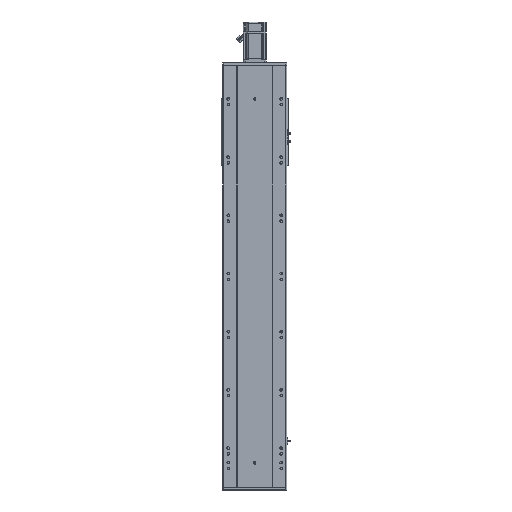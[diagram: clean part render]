
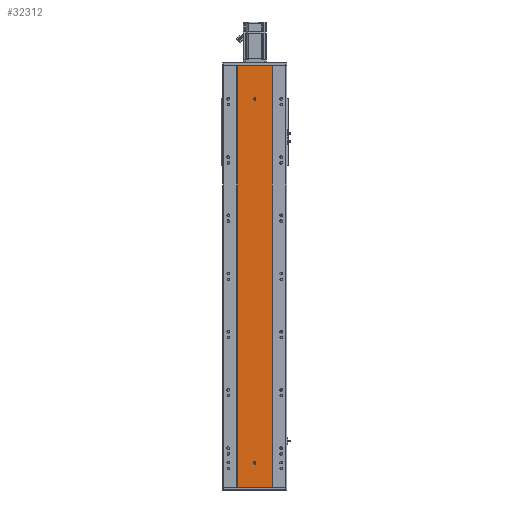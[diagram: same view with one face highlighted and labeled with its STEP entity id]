
A CAD part, front view. The second image highlights one B-rep face of the part: STEP entity #32312.
In plain terms, the highlighted planar face has unit normal (0, -1, 0).
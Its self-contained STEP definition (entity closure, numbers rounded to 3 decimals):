
#846 = VECTOR ( 'NONE', #32666, 1000. ) ;
#1360 = EDGE_CURVE ( 'NONE', #24825, #36761, #6103, .T. ) ;
#2261 = VECTOR ( 'NONE', #11137, 1000. ) ;
#4689 = LINE ( 'NONE', #62949, #48230 ) ;
#4769 = DIRECTION ( 'NONE',  ( 0., 0., -1. ) ) ;
#5056 = CARTESIAN_POINT ( 'NONE',  ( 0., 0., 80.5 ) ) ;
#5217 = CARTESIAN_POINT ( 'NONE',  ( 4., 0., 84.5 ) ) ;
#5332 = FACE_BOUND ( 'NONE', #60350, .T. ) ;
#5574 = CARTESIAN_POINT ( 'NONE',  ( 60., 0., 0. ) ) ;
#5734 = VERTEX_POINT ( 'NONE', #68126 ) ;
#6103 = CIRCLE ( 'NONE', #22642, 4. ) ;
#9934 = CIRCLE ( 'NONE', #13556, 4. ) ;
#11137 = DIRECTION ( 'NONE',  ( 0., 0., -1. ) ) ;
#12325 = ORIENTED_EDGE ( 'NONE', *, *, #44522, .F. ) ;
#13371 = DIRECTION ( 'NONE',  ( 0., -1., 0. ) ) ;
#13556 = AXIS2_PLACEMENT_3D ( 'NONE', #53838, #13371, #54062 ) ;
#14284 = FACE_BOUND ( 'NONE', #72525, .T. ) ;
#15116 = CARTESIAN_POINT ( 'NONE',  ( 60., 0., 1450. ) ) ;
#15667 = DIRECTION ( 'NONE',  ( 1., 0., 0. ) ) ;
#16637 = CARTESIAN_POINT ( 'NONE',  ( -4., 0., 84.5 ) ) ;
#16792 = AXIS2_PLACEMENT_3D ( 'NONE', #50406, #27851, #44697 ) ;
#20487 = VECTOR ( 'NONE', #15667, 1000. ) ;
#21943 = AXIS2_PLACEMENT_3D ( 'NONE', #49595, #60570, #25845 ) ;
#22642 = AXIS2_PLACEMENT_3D ( 'NONE', #72955, #72721, #39107 ) ;
#23417 = EDGE_CURVE ( 'NONE', #59981, #35006, #64379, .T. ) ;
#24515 = EDGE_CURVE ( 'NONE', #69302, #50229, #4689, .T. ) ;
#24825 = VERTEX_POINT ( 'NONE', #39334 ) ;
#25845 = DIRECTION ( 'NONE',  ( 0., 0., 1. ) ) ;
#26608 = VERTEX_POINT ( 'NONE', #5217 ) ;
#27169 = CARTESIAN_POINT ( 'NONE',  ( 0., 0., 1336. ) ) ;
#27184 = EDGE_CURVE ( 'NONE', #26608, #59981, #63092, .T. ) ;
#27564 = DIRECTION ( 'NONE',  ( 0., 0., -1. ) ) ;
#27851 = DIRECTION ( 'NONE',  ( 0., -1., 0. ) ) ;
#28757 = VECTOR ( 'NONE', #27564, 1000. ) ;
#28932 = DIRECTION ( 'NONE',  ( 0., 0., -1. ) ) ;
#29572 = CARTESIAN_POINT ( 'NONE',  ( 0., 0., 87.5 ) ) ;
#30524 = ORIENTED_EDGE ( 'NONE', *, *, #42450, .F. ) ;
#30591 = CARTESIAN_POINT ( 'NONE',  ( -60., 0., 1450. ) ) ;
#31933 = CARTESIAN_POINT ( 'NONE',  ( 4., 0., 84.5 ) ) ;
#32312 = ADVANCED_FACE ( 'NONE', ( #5332, #14284, #52462 ), #66281, .F. ) ;
#32666 = DIRECTION ( 'NONE',  ( 0., 0., 1. ) ) ;
#33445 = CARTESIAN_POINT ( 'NONE',  ( -60., 0., 1450. ) ) ;
#33903 = LINE ( 'NONE', #33445, #57007 ) ;
#34080 = ORIENTED_EDGE ( 'NONE', *, *, #68022, .F. ) ;
#34410 = ORIENTED_EDGE ( 'NONE', *, *, #23417, .F. ) ;
#35006 = VERTEX_POINT ( 'NONE', #71921 ) ;
#36761 = VERTEX_POINT ( 'NONE', #37040 ) ;
#36904 = LINE ( 'NONE', #39905, #2261 ) ;
#36990 = CIRCLE ( 'NONE', #49413, 4. ) ;
#37040 = CARTESIAN_POINT ( 'NONE',  ( 0., 0., 1332. ) ) ;
#39107 = DIRECTION ( 'NONE',  ( 0., 0., -1. ) ) ;
#39334 = CARTESIAN_POINT ( 'NONE',  ( 0., 0., 1340. ) ) ;
#39905 = CARTESIAN_POINT ( 'NONE',  ( 60., 0., 1450. ) ) ;
#40468 = ORIENTED_EDGE ( 'NONE', *, *, #61183, .T. ) ;
#41364 = ORIENTED_EDGE ( 'NONE', *, *, #42851, .F. ) ;
#41465 = DIRECTION ( 'NONE',  ( 0., 0., -1. ) ) ;
#42450 = EDGE_CURVE ( 'NONE', #5734, #57184, #63292, .T. ) ;
#42851 = EDGE_CURVE ( 'NONE', #69302, #55138, #33903, .T. ) ;
#44522 = EDGE_CURVE ( 'NONE', #57184, #26608, #9934, .T. ) ;
#44697 = DIRECTION ( 'NONE',  ( 0., 0., -1. ) ) ;
#46470 = ORIENTED_EDGE ( 'NONE', *, *, #27184, .F. ) ;
#48230 = VECTOR ( 'NONE', #28932, 1000. ) ;
#49413 = AXIS2_PLACEMENT_3D ( 'NONE', #27169, #72878, #4769 ) ;
#49595 = CARTESIAN_POINT ( 'NONE',  ( -60., 0., 1450. ) ) ;
#49655 = CARTESIAN_POINT ( 'NONE',  ( -60., 0., 0. ) ) ;
#50229 = VERTEX_POINT ( 'NONE', #70628 ) ;
#50406 = CARTESIAN_POINT ( 'NONE',  ( 0., 0., 84.5 ) ) ;
#50962 = LINE ( 'NONE', #16637, #28757 ) ;
#52417 = DIRECTION ( 'NONE',  ( 0., -1., 0. ) ) ;
#52462 = FACE_OUTER_BOUND ( 'NONE', #61922, .T. ) ;
#52467 = LINE ( 'NONE', #49655, #20487 ) ;
#53704 = EDGE_CURVE ( 'NONE', #55138, #54370, #36904, .T. ) ;
#53838 = CARTESIAN_POINT ( 'NONE',  ( 0., 0., 84.5 ) ) ;
#54062 = DIRECTION ( 'NONE',  ( 0., 0., -1. ) ) ;
#54121 = CARTESIAN_POINT ( 'NONE',  ( 4., 0., 87.5 ) ) ;
#54370 = VERTEX_POINT ( 'NONE', #5574 ) ;
#55138 = VERTEX_POINT ( 'NONE', #15116 ) ;
#55746 = AXIS2_PLACEMENT_3D ( 'NONE', #29572, #52417, #41465 ) ;
#57007 = VECTOR ( 'NONE', #73256, 1000. ) ;
#57184 = VERTEX_POINT ( 'NONE', #5056 ) ;
#59981 = VERTEX_POINT ( 'NONE', #54121 ) ;
#60350 = EDGE_LOOP ( 'NONE', ( #62340, #61319 ) ) ;
#60570 = DIRECTION ( 'NONE',  ( 0., 1., 0. ) ) ;
#61183 = EDGE_CURVE ( 'NONE', #50229, #54370, #52467, .T. ) ;
#61319 = ORIENTED_EDGE ( 'NONE', *, *, #1360, .F. ) ;
#61922 = EDGE_LOOP ( 'NONE', ( #40468, #72088, #41364, #68873 ) ) ;
#62340 = ORIENTED_EDGE ( 'NONE', *, *, #63629, .F. ) ;
#62949 = CARTESIAN_POINT ( 'NONE',  ( -60., 0., 1450. ) ) ;
#63092 = LINE ( 'NONE', #31933, #846 ) ;
#63292 = CIRCLE ( 'NONE', #16792, 4. ) ;
#63629 = EDGE_CURVE ( 'NONE', #36761, #24825, #36990, .T. ) ;
#64379 = CIRCLE ( 'NONE', #55746, 4. ) ;
#66281 = PLANE ( 'NONE',  #21943 ) ;
#68022 = EDGE_CURVE ( 'NONE', #35006, #5734, #50962, .T. ) ;
#68126 = CARTESIAN_POINT ( 'NONE',  ( -4., 0., 84.5 ) ) ;
#68873 = ORIENTED_EDGE ( 'NONE', *, *, #24515, .T. ) ;
#69302 = VERTEX_POINT ( 'NONE', #30591 ) ;
#70628 = CARTESIAN_POINT ( 'NONE',  ( -60., 0., 0. ) ) ;
#71921 = CARTESIAN_POINT ( 'NONE',  ( -4., 0., 87.5 ) ) ;
#72088 = ORIENTED_EDGE ( 'NONE', *, *, #53704, .F. ) ;
#72525 = EDGE_LOOP ( 'NONE', ( #46470, #12325, #30524, #34080, #34410 ) ) ;
#72721 = DIRECTION ( 'NONE',  ( 0., -1., 0. ) ) ;
#72878 = DIRECTION ( 'NONE',  ( 0., -1., 0. ) ) ;
#72955 = CARTESIAN_POINT ( 'NONE',  ( 0., 0., 1336. ) ) ;
#73256 = DIRECTION ( 'NONE',  ( 1., 0., 0. ) ) ;
